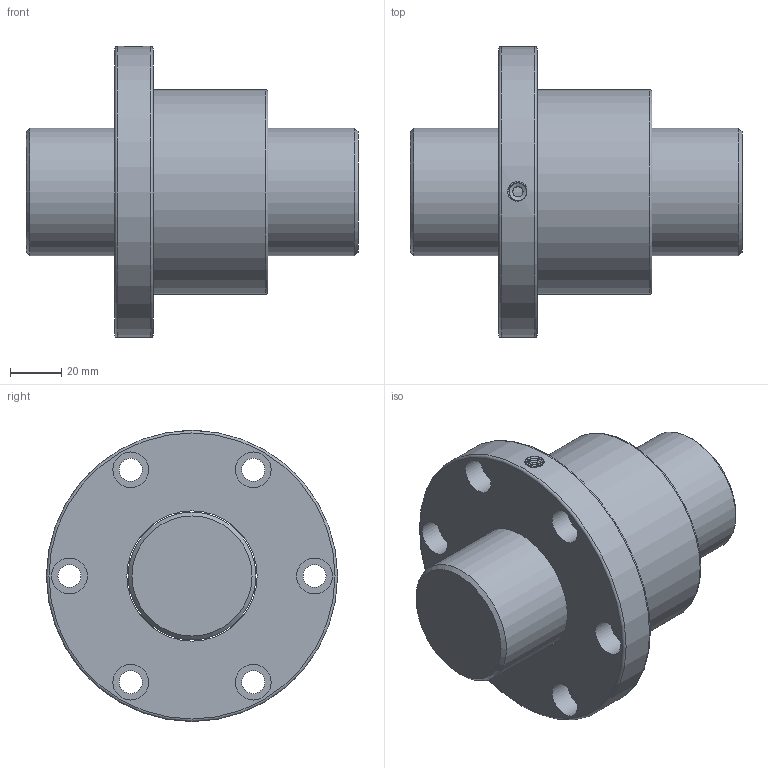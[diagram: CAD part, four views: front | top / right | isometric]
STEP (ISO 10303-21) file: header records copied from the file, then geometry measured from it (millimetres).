
FILE_DESCRIPTION (( 'STEP AP203' ), '1' );
FILE_NAME ('SFV05005-4.8.STEP', '2023-05-30T07:28:10', ( '' ), ( '' ), 'SwSTEP 2.0', 'SolidWorks 2022', '' );
FILE_SCHEMA (( 'CONFIG_CONTROL_DESIGN' ));
Length unit declared in the file: millimetre
Products named in the file (1): SFV05005-4.8
Bounding box: 130 x 114 x 114 mm (x, y, z)
Volume: 500736.7 mm3; surface area: 69377.1 mm2
Topology: 2 solids, 2 shells, 40 faces, 86 edges, 57 vertices
Faces by surface type: cylinder 20, plane 12, cone 3, torus 3, bspline 2
Full cylindrical faces by diameter (mm): 4 x1, 6.917 x1, 9 x6, 14 x6, 50 x1, 51 x1, 80 x1, 114 x1
Entity records: 2949 total; most frequent: CARTESIAN_POINT 2115, DIRECTION 162, ORIENTED_EDGE 106, EDGE_LOOP 87, AXIS2_PLACEMENT_3D 81, FACE_OUTER_BOUND 61, EDGE_CURVE 53, VERTEX_POINT 48
